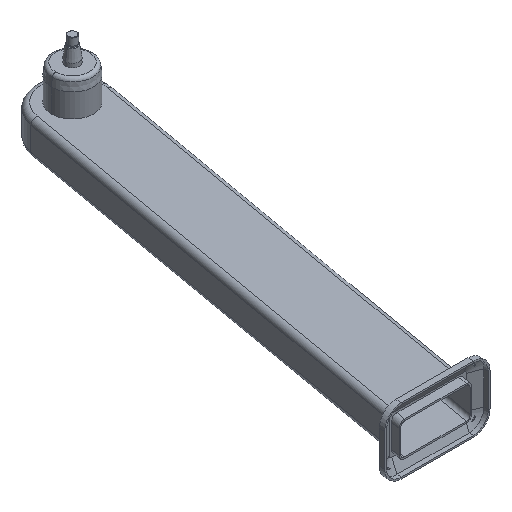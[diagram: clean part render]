
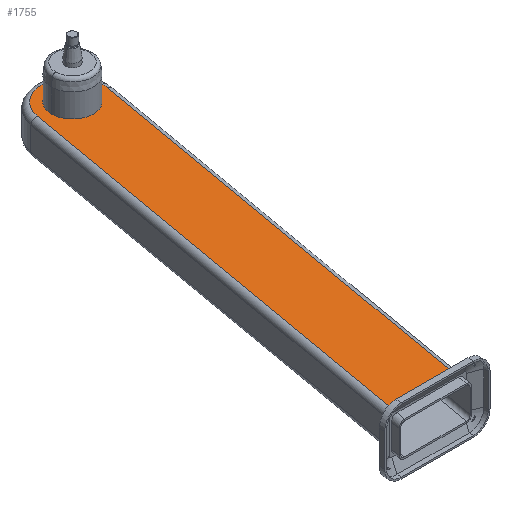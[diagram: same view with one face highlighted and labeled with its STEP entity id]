
A CAD part, isometric view. The second image highlights one B-rep face of the part: STEP entity #1755.
In plain terms, the highlighted planar face has unit normal (0, 0, 1).
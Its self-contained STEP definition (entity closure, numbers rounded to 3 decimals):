
#77 = EDGE_CURVE ( 'NONE', #2663, #2061, #2980, .T. ) ;
#92 = CARTESIAN_POINT ( 'NONE',  ( 0., -780., 31.25 ) ) ;
#131 = CIRCLE ( 'NONE', #3039, 55. ) ;
#152 = EDGE_LOOP ( 'NONE', ( #986, #990, #1033, #1077, #1080 ) ) ;
#210 = VERTEX_POINT ( 'NONE', #1148 ) ;
#238 = DIRECTION ( 'NONE',  ( 0., 0., 1. ) ) ;
#241 = DIRECTION ( 'NONE',  ( 0., 0., 1. ) ) ;
#279 = CARTESIAN_POINT ( 'NONE',  ( -197.216, -801.736, 31.25 ) ) ;
#439 = LINE ( 'NONE', #92, #1692 ) ;
#499 = CARTESIAN_POINT ( 'NONE',  ( 38., 0., 31.25 ) ) ;
#521 = VERTEX_POINT ( 'NONE', #2505 ) ;
#575 = DIRECTION ( 'NONE',  ( 0., 0., 1. ) ) ;
#754 = CARTESIAN_POINT ( 'NONE',  ( 0., 0., 31.25 ) ) ;
#921 = DIRECTION ( 'NONE',  ( 1., 0., 0. ) ) ;
#986 = ORIENTED_EDGE ( 'NONE', *, *, #1018, .T. ) ;
#990 = ORIENTED_EDGE ( 'NONE', *, *, #1853, .T. ) ;
#1009 = CARTESIAN_POINT ( 'NONE',  ( 0., 0., 31.25 ) ) ;
#1018 = EDGE_CURVE ( 'NONE', #210, #1502, #1257, .T. ) ;
#1033 = ORIENTED_EDGE ( 'NONE', *, *, #3166, .T. ) ;
#1041 = DIRECTION ( 'NONE',  ( 1., 0., 0. ) ) ;
#1066 = EDGE_CURVE ( 'NONE', #521, #210, #439, .T. ) ;
#1077 = ORIENTED_EDGE ( 'NONE', *, *, #2148, .T. ) ;
#1080 = ORIENTED_EDGE ( 'NONE', *, *, #1066, .T. ) ;
#1090 = ORIENTED_EDGE ( 'NONE', *, *, #1337, .F. ) ;
#1115 = ORIENTED_EDGE ( 'NONE', *, *, #77, .F. ) ;
#1148 = CARTESIAN_POINT ( 'NONE',  ( -81.687, -780., 31.25 ) ) ;
#1176 = VECTOR ( 'NONE', #2898, 1000. ) ;
#1178 = CARTESIAN_POINT ( 'NONE',  ( 54.164, -9.551, 31.25 ) ) ;
#1257 = LINE ( 'NONE', #1178, #1176 ) ;
#1283 = DIRECTION ( 'NONE',  ( 1., 0., 0. ) ) ;
#1293 = FACE_BOUND ( 'NONE', #3293, .T. ) ;
#1337 = EDGE_CURVE ( 'NONE', #2061, #2663, #2941, .T. ) ;
#1366 = VECTOR ( 'NONE', #1881, 1000. ) ;
#1502 = VERTEX_POINT ( 'NONE', #1901 ) ;
#1644 = AXIS2_PLACEMENT_3D ( 'NONE', #1840, #238, #2080 ) ;
#1692 = VECTOR ( 'NONE', #921, 1000. ) ;
#1755 = ADVANCED_FACE ( 'NONE', ( #1892, #1293 ), #3220, .T. ) ;
#1840 = CARTESIAN_POINT ( 'NONE',  ( 0., 0., 31.25 ) ) ;
#1846 = CARTESIAN_POINT ( 'NONE',  ( 0., 0., 31.25 ) ) ;
#1853 = EDGE_CURVE ( 'NONE', #1502, #2064, #131, .T. ) ;
#1857 = CARTESIAN_POINT ( 'NONE',  ( -38., 0., 31.25 ) ) ;
#1858 = AXIS2_PLACEMENT_3D ( 'NONE', #2128, #575, #2371 ) ;
#1881 = DIRECTION ( 'NONE',  ( -0.174, -0.985, 0. ) ) ;
#1892 = FACE_OUTER_BOUND ( 'NONE', #152, .T. ) ;
#1901 = CARTESIAN_POINT ( 'NONE',  ( 54.164, -9.551, 31.25 ) ) ;
#2000 = CARTESIAN_POINT ( 'NONE',  ( -54.164, 9.551, 31.25 ) ) ;
#2061 = VERTEX_POINT ( 'NONE', #499 ) ;
#2064 = VERTEX_POINT ( 'NONE', #2303 ) ;
#2080 = DIRECTION ( 'NONE',  ( 1., 0., 0. ) ) ;
#2084 = DIRECTION ( 'NONE',  ( 1., 0., 0. ) ) ;
#2128 = CARTESIAN_POINT ( 'NONE',  ( 0., 0., 31.25 ) ) ;
#2148 = EDGE_CURVE ( 'NONE', #2431, #521, #2671, .T. ) ;
#2230 = AXIS2_PLACEMENT_3D ( 'NONE', #1009, #2754, #1283 ) ;
#2303 = CARTESIAN_POINT ( 'NONE',  ( 55., 0., 31.25 ) ) ;
#2371 = DIRECTION ( 'NONE',  ( 1., 0., 0. ) ) ;
#2431 = VERTEX_POINT ( 'NONE', #2000 ) ;
#2505 = CARTESIAN_POINT ( 'NONE',  ( -193.384, -780., 31.25 ) ) ;
#2529 = DIRECTION ( 'NONE',  ( 0., 0., 1. ) ) ;
#2663 = VERTEX_POINT ( 'NONE', #1857 ) ;
#2671 = LINE ( 'NONE', #279, #1366 ) ;
#2754 = DIRECTION ( 'NONE',  ( 0., 0., 1. ) ) ;
#2834 = AXIS2_PLACEMENT_3D ( 'NONE', #754, #2529, #1041 ) ;
#2898 = DIRECTION ( 'NONE',  ( 0.174, 0.985, 0. ) ) ;
#2941 = CIRCLE ( 'NONE', #2834, 38. ) ;
#2980 = CIRCLE ( 'NONE', #1858, 38. ) ;
#3000 = CIRCLE ( 'NONE', #1644, 55. ) ;
#3039 = AXIS2_PLACEMENT_3D ( 'NONE', #1846, #241, #2084 ) ;
#3166 = EDGE_CURVE ( 'NONE', #2064, #2431, #3000, .T. ) ;
#3220 = PLANE ( 'NONE',  #2230 ) ;
#3293 = EDGE_LOOP ( 'NONE', ( #1090, #1115 ) ) ;
